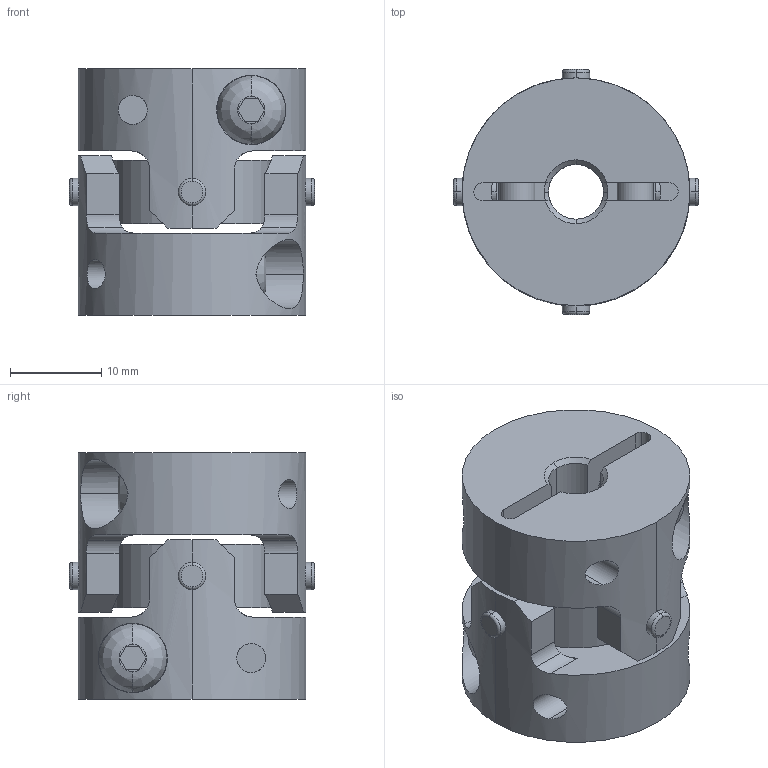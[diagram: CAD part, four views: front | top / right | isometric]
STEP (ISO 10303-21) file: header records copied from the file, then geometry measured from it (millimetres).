
FILE_DESCRIPTION((''),'2;1');
FILE_NAME('UA-25C-6×6.stp','2013-05-16T09:16:20',(''),(''),'AutoCAD STEP 2000i','AutoCAD 2000i',', , ');
FILE_SCHEMA(('CONFIG_CONTROL_DESIGN'));
Length unit declared in the file: millimetre
Products named in the file (6): UA-25C-5×5; 忣兜1; UA-2502-D05-1; BTN-M4; UA-2502-D05; UA25-SEN
Assembly tree (6 placements, depth 3):
  UA-25C-5×5
    忣兜1
    UA-2502-D05-1
      BTN-M4
    UA-2502-D05
      BTN-M4
    UA25-SEN
Bounding box: 26.89 x 26.89 x 27 mm (x, y, z)
Volume: 9368.9 mm3; surface area: 6496.9 mm2
Topology: 1 solids, 1 shells, 206 faces, 554 edges, 364 vertices
Faces by surface type: cylinder 96, plane 78, cone 16, bspline 8, torus 8
Entity records: 8291 total; most frequent: CARTESIAN_POINT 2975, ORIENTED_EDGE 1108, DIRECTION 1064, EDGE_CURVE 554, AXIS2_PLACEMENT_3D 409, VERTEX_POINT 364, VECTOR 246, LINE 246
